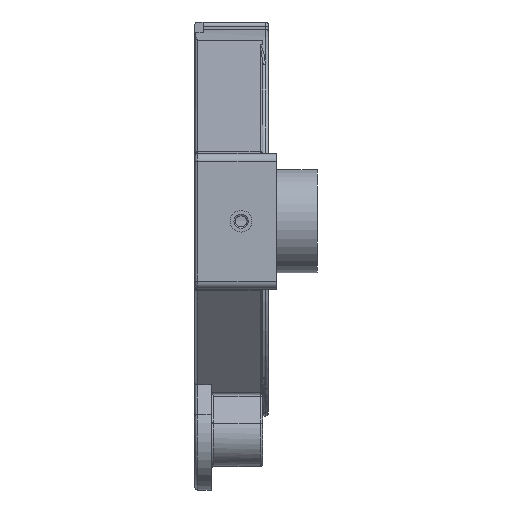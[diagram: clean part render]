
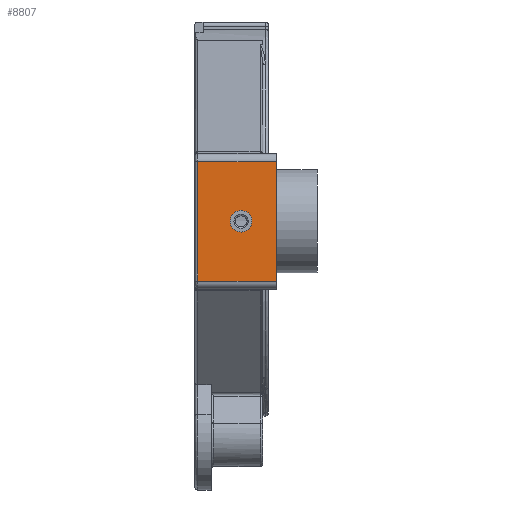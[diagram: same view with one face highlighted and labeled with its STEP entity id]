
A CAD part, left-side view. The second image highlights one B-rep face of the part: STEP entity #8807.
In plain terms, the highlighted planar face has unit normal (-1, 0, 0).
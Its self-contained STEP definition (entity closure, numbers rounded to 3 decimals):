
#58 = ORIENTED_EDGE ( 'NONE', *, *, #8165, .F. ) ;
#119 = EDGE_CURVE ( 'NONE', #3029, #7419, #6427, .T. ) ;
#202 = EDGE_CURVE ( 'NONE', #6725, #3029, #702, .T. ) ;
#233 = LINE ( 'NONE', #7422, #4128 ) ;
#640 = CARTESIAN_POINT ( 'NONE',  ( -160., 24., -22. ) ) ;
#702 = LINE ( 'NONE', #640, #9006 ) ;
#826 = DIRECTION ( 'NONE',  ( -1., 0., 0. ) ) ;
#1002 = CARTESIAN_POINT ( 'NONE',  ( -160., 25., -22. ) ) ;
#1422 = ORIENTED_EDGE ( 'NONE', *, *, #5586, .F. ) ;
#1735 = CARTESIAN_POINT ( 'NONE',  ( -160., -5., 0. ) ) ;
#2412 = DIRECTION ( 'NONE',  ( 0., 0., -1. ) ) ;
#2663 = DIRECTION ( 'NONE',  ( 0., -1., 0. ) ) ;
#2717 = CARTESIAN_POINT ( 'NONE',  ( -160., 8., 0. ) ) ;
#2808 = FACE_OUTER_BOUND ( 'NONE', #11581, .T. ) ;
#3003 = CARTESIAN_POINT ( 'NONE',  ( -160., 8., 0. ) ) ;
#3029 = VERTEX_POINT ( 'NONE', #5025 ) ;
#3343 = ORIENTED_EDGE ( 'NONE', *, *, #119, .T. ) ;
#3377 = EDGE_LOOP ( 'NONE', ( #4391, #58 ) ) ;
#4128 = VECTOR ( 'NONE', #10986, 1000. ) ;
#4391 = ORIENTED_EDGE ( 'NONE', *, *, #6950, .F. ) ;
#4457 = PLANE ( 'NONE',  #11099 ) ;
#4487 = VECTOR ( 'NONE', #2663, 1000. ) ;
#5025 = CARTESIAN_POINT ( 'NONE',  ( -160., 24., -22. ) ) ;
#5209 = DIRECTION ( 'NONE',  ( 0., 0., -1. ) ) ;
#5329 = CARTESIAN_POINT ( 'NONE',  ( -160., -5., 22. ) ) ;
#5544 = VECTOR ( 'NONE', #5209, 1000. ) ;
#5569 = VERTEX_POINT ( 'NONE', #5329 ) ;
#5586 = EDGE_CURVE ( 'NONE', #5569, #7419, #9671, .T. ) ;
#5655 = DIRECTION ( 'NONE',  ( -1., 0., 0. ) ) ;
#5848 = ORIENTED_EDGE ( 'NONE', *, *, #202, .T. ) ;
#6282 = DIRECTION ( 'NONE',  ( 0., 0., -1. ) ) ;
#6401 = CARTESIAN_POINT ( 'NONE',  ( -160., 25., 80. ) ) ;
#6427 = LINE ( 'NONE', #1002, #4487 ) ;
#6725 = VERTEX_POINT ( 'NONE', #8420 ) ;
#6936 = CARTESIAN_POINT ( 'NONE',  ( -160., 8., -4. ) ) ;
#6950 = EDGE_CURVE ( 'NONE', #7599, #10698, #9200, .T. ) ;
#7100 = EDGE_CURVE ( 'NONE', #5569, #6725, #233, .T. ) ;
#7141 = AXIS2_PLACEMENT_3D ( 'NONE', #2717, #826, #10699 ) ;
#7419 = VERTEX_POINT ( 'NONE', #10918 ) ;
#7422 = CARTESIAN_POINT ( 'NONE',  ( -160., 25., 22. ) ) ;
#7599 = VERTEX_POINT ( 'NONE', #8029 ) ;
#8029 = CARTESIAN_POINT ( 'NONE',  ( -160., 8., 4. ) ) ;
#8045 = DIRECTION ( 'NONE',  ( 1., 0., 0. ) ) ;
#8165 = EDGE_CURVE ( 'NONE', #10698, #7599, #9402, .T. ) ;
#8420 = CARTESIAN_POINT ( 'NONE',  ( -160., 24., 22. ) ) ;
#8807 = ADVANCED_FACE ( 'NONE', ( #10732, #2808 ), #4457, .F. ) ;
#9006 = VECTOR ( 'NONE', #2412, 1000. ) ;
#9200 = CIRCLE ( 'NONE', #7141, 4. ) ;
#9238 = DIRECTION ( 'NONE',  ( 0., 0., 1. ) ) ;
#9402 = CIRCLE ( 'NONE', #10895, 4. ) ;
#9671 = LINE ( 'NONE', #1735, #5544 ) ;
#10698 = VERTEX_POINT ( 'NONE', #6936 ) ;
#10699 = DIRECTION ( 'NONE',  ( 0., 0., 1. ) ) ;
#10732 = FACE_BOUND ( 'NONE', #3377, .T. ) ;
#10895 = AXIS2_PLACEMENT_3D ( 'NONE', #3003, #5655, #9238 ) ;
#10918 = CARTESIAN_POINT ( 'NONE',  ( -160., -5., -22. ) ) ;
#10986 = DIRECTION ( 'NONE',  ( 0., 1., 0. ) ) ;
#11099 = AXIS2_PLACEMENT_3D ( 'NONE', #6401, #8045, #6282 ) ;
#11126 = ORIENTED_EDGE ( 'NONE', *, *, #7100, .T. ) ;
#11581 = EDGE_LOOP ( 'NONE', ( #11126, #5848, #3343, #1422 ) ) ;
